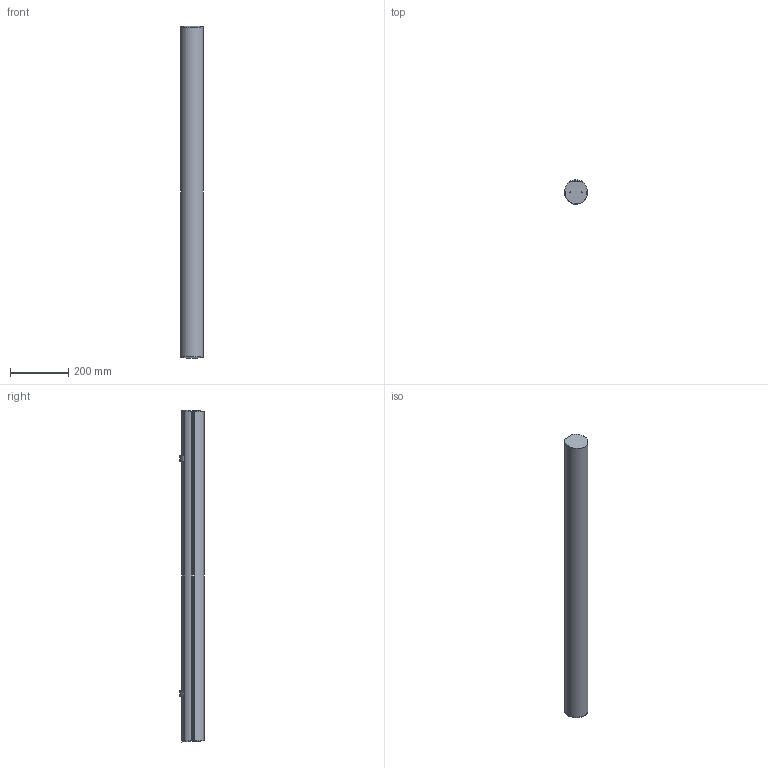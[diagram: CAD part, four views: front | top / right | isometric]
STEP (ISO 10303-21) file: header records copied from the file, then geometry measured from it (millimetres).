
FILE_DESCRIPTION (( 'STEP AP214' ), '1' );
FILE_NAME ('mLight_Polar LED_1124mm.STEP', '2015-06-12T04:03:11', ( '' ), ( '' ), 'SwSTEP 2.0', 'SolidWorks 2014', '' );
FILE_SCHEMA (( 'AUTOMOTIVE_DESIGN' ));
Length unit declared in the file: millimetre
Products named in the file (1): mLight_Polar LED_1124mm
Bounding box: 77.28 x 83.33 x 1136 mm (x, y, z)
Surface area: 339000.6 mm2 (no closed solid volume)
Topology: 0 solids, 16 shells, 132 faces, 462 edges, 344 vertices
Faces by surface type: cylinder 85, plane 47
Entity records: 6416 total; most frequent: CARTESIAN_POINT 1005, DIRECTION 904, ORIENTED_EDGE 644, EDGE_CURVE 462, VERTEX_POINT 344, AXIS2_PLACEMENT_3D 331, VECTOR 242, LINE 242
